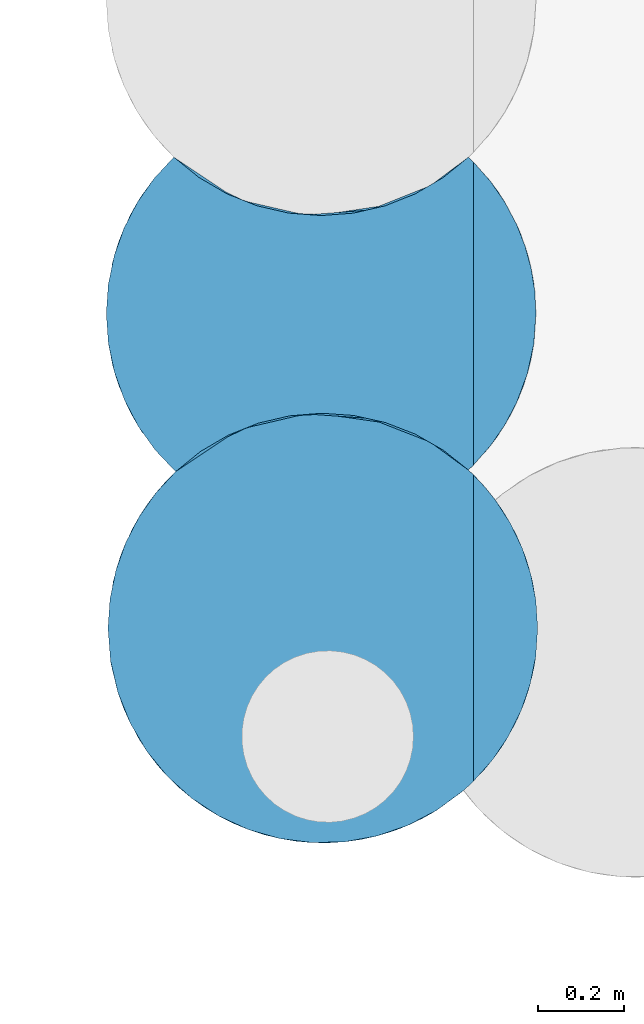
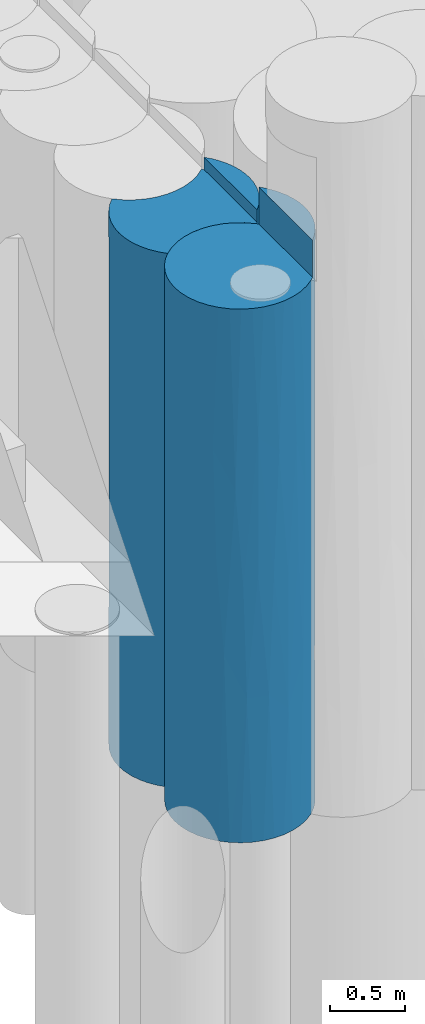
# One storey, part 16 of 104: 2 piles.
"""IFC2X3 building model written with IfcOpenShell, lengths in millimetres."""

from ifc_helpers import new_model, entity, si_unit, converted_unit, derived_unit, direction, frame, origin, place, context, subcontext, project, spatial, faceted_brep, source, transform, mapped, material, element, save


model = new_model("IFC2X3")

# Units and contexts
model_context = context("Model", 3, precision=0.01, world=origin(), true_north=direction((6.12303176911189e-17, 1.0)))
body_context = subcontext(model_context, "Body", "Model", "MODEL_VIEW")
ifc_project = project(units=[si_unit("LENGTHUNIT", "METRE", prefix="MILLI"), si_unit("AREAUNIT", "SQUARE_METRE", prefix="MILLI"), si_unit("VOLUMEUNIT", "CUBIC_METRE"), converted_unit("PLANEANGLEUNIT", "DEGREE", entity("IfcRatioMeasure", 0.0174532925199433), si_unit("PLANEANGLEUNIT", "RADIAN"), dimensions=[0, 0, 0, 0, 0, 0, 0]), si_unit("MASSUNIT", "GRAM", prefix="KILO"), derived_unit("MASSDENSITYUNIT", [(si_unit("MASSUNIT", "GRAM", prefix="KILO"), 1), (si_unit("LENGTHUNIT", "METRE"), -3)]), derived_unit("MOMENTOFINERTIAUNIT", [(si_unit("LENGTHUNIT", "METRE"), 4)]), si_unit("TIMEUNIT", "SECOND"), si_unit("FREQUENCYUNIT", "HERTZ"), si_unit("THERMODYNAMICTEMPERATUREUNIT", "DEGREE_CELSIUS"), derived_unit("THERMALTRANSMITTANCEUNIT", [(si_unit("MASSUNIT", "GRAM", prefix="KILO"), 1), (si_unit("THERMODYNAMICTEMPERATUREUNIT", "KELVIN"), -1), (si_unit("TIMEUNIT", "SECOND"), -3)]), derived_unit("VOLUMETRICFLOWRATEUNIT", [(si_unit("LENGTHUNIT", "METRE"), 3), (si_unit("TIMEUNIT", "SECOND"), -1)]), si_unit("ELECTRICCURRENTUNIT", "AMPERE"), si_unit("ELECTRICVOLTAGEUNIT", "VOLT"), si_unit("POWERUNIT", "WATT"), si_unit("FORCEUNIT", "NEWTON", prefix="KILO"), si_unit("ILLUMINANCEUNIT", "LUX"), si_unit("LUMINOUSFLUXUNIT", "LUMEN"), si_unit("LUMINOUSINTENSITYUNIT", "CANDELA"), derived_unit("USERDEFINED", [(si_unit("MASSUNIT", "GRAM", prefix="KILO"), -1), (si_unit("LENGTHUNIT", "METRE"), -2), (si_unit("TIMEUNIT", "SECOND"), 3), (si_unit("LUMINOUSFLUXUNIT", "LUMEN"), 1)]), derived_unit("LINEARVELOCITYUNIT", [(si_unit("LENGTHUNIT", "METRE"), 1), (si_unit("TIMEUNIT", "SECOND"), -1)]), si_unit("PRESSUREUNIT", "PASCAL"), derived_unit("USERDEFINED", [(si_unit("LENGTHUNIT", "METRE"), -2), (si_unit("MASSUNIT", "GRAM", prefix="KILO"), 1), (si_unit("TIMEUNIT", "SECOND"), -2)]), derived_unit("LINEARFORCEUNIT", [(si_unit("MASSUNIT", "GRAM", prefix="KILO"), 1), (si_unit("LENGTHUNIT", "METRE"), 1), (si_unit("TIMEUNIT", "SECOND"), -2), (si_unit("LENGTHUNIT", "METRE"), -1)]), derived_unit("PLANARFORCEUNIT", [(si_unit("MASSUNIT", "GRAM", prefix="KILO"), 1), (si_unit("LENGTHUNIT", "METRE"), 1), (si_unit("TIMEUNIT", "SECOND"), -2), (si_unit("LENGTHUNIT", "METRE"), -2)])], contexts=[model_context])

# Site, building, storey
site_placement = place(None, origin())
site = spatial("IfcSite", under=ifc_project, at=site_placement, Name="Theater aan de Parade", CompositionType="ELEMENT")
building_placement = place(site_placement, origin())
building = spatial("IfcBuilding", under=site, at=building_placement, Name="Theater aan de Parade", CompositionType="ELEMENT")
storey_placement = place(building_placement, frame((0.0, 0.0, -5520.0)))
storey = spatial("IfcBuildingStorey", under=building, at=storey_placement, Name="-2 kelder", CompositionType="ELEMENT", Elevation=-5520.0)

# Piles
ifc_material = material(Name="00_PBT_MAT_grout")
shared_shape_1 = source(origin(), body_context, "Body", "Brep", [
    faceted_brep([(652.737142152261, 641.003403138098, 0.0), (981.595272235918, 641.003403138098, 0.0), (996.568926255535, 571.721730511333, 0.0), (1001.59527223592, 501.003403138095, 0.0), (996.484550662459, 429.69700722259, 0.0), (981.260617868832, 359.86107710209, 0.0), (956.235191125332, 292.910769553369, 0.0), (921.921388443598, 230.215744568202, 0.0), (879.020764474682, 173.055239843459, 0.0), (828.407067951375, 122.602821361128, 0.0), (767.257527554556, 77.4192130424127, 0.0), (699.962782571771, 42.0368130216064, 0.0), (628.081210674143, 17.2665869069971, 0.0), (553.274780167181, 3.68134605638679, 0.0), (477.273106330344, 1.59532125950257, 0.0), (401.833471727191, 11.0568926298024, 0.0), (328.700205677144, 31.8474632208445, 0.0), (259.5643613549, 63.4865026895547, 0.0), (196.024622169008, 105.242644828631, 0.0), (139.550340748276, 156.150582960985, 0.0), (91.4475646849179, 215.033373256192, 0.0), (52.8288342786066, 280.529631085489, 0.0), (24.5874504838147, 351.124992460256, 0.0), (7.37687608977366, 425.186670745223, 0.0), (1.5952722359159, 501.0034031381, 0.0), (6.21245642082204, 568.796218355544, 0.0), (19.9760789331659, 635.327461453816, 0.0), (42.6312781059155, 699.376919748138, 0.0), (73.7582250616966, 759.760936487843, 0.0), (112.781222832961, 815.365670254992, 0.0), (158.988346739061, 865.168537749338, 0.0), (210.193538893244, 907.309974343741, 0.0), (266.53373380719, 942.303837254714, 0.0), (327.009075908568, 969.532655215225, 0.0), (390.556343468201, 988.517870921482, 0.0), (456.058433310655, 998.925481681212, 0.0), (522.363757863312, 1000.57188693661, 0.0), (588.305073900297, 993.427417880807, 0.0), (652.737142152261, 977.612399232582, 0.0), (387.442062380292, 987.798066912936, 3244.72220634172), (281.771197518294, 950.088446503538, 4320.0), (351.30792434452, 977.882541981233, 4320.0), (92.3243044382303, 788.226791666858, 1147.84684598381), (183.88355562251, 887.085344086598, 1831.85045859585), (183.883555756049, 887.085344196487, 890.537160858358), (981.595272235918, 641.003403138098, 1000.0), (1001.59527223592, 501.0034031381, 2310.0), (1001.59527223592, 501.003403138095, 1496.92458815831), (1001.59527223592, 501.0034031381, 1155.0), (935.263440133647, 749.864649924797, 1000.0), (902.783141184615, 799.413010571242, 1000.0), (919.75781215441, 775.120331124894, 2116.46318686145), (6.21275009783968, 568.798364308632, 4320.0), (1.59527223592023, 501.0034031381, 2758.4752579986), (1.59527223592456, 501.0034031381, 3539.23119433), (1.59527223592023, 501.0034031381, 4320.0), (113.074238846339, 815.727737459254, 2042.39998644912), (873.125106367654, 835.615988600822, 1000.0), (857.072060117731, 852.622875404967, 1817.91351695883), (449.180463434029, 998.248501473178, 2517.68345043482), (358.467574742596, 980.080079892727, 2149.78615925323), (135.005082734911, 841.020510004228, 3018.88254979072), (112.750472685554, 815.327633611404, 4320.0), (158.953913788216, 865.141974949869, 4320.0), (961.655733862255, 696.820592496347, 1000.0), (536.315287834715, 999.796466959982, 2983.71487445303), (652.737142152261, 977.612399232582, 1000.0), (849.640124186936, 859.980813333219, 2658.11262271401), (775.703899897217, 919.171384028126, 2039.13455867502), (798.123003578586, 903.584208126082, 1000.0), (840.241325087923, 868.860509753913, 1000.0), (752.467321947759, 933.511454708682, 1000.0), (678.542084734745, 968.646242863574, 2664.933075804), (749.702669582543, 935.103298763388, 3370.10374317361), (57.1530048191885, 730.069050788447, 2160.01727949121), (30.2081452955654, 667.719258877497, 3172.27895487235), (74.9032592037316, 761.644777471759, 3346.91041429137), (678.542085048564, 968.646242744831, 1813.539130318), (266.116623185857, 942.081407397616, 2015.64644824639), (296.319436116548, 956.92207034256, 1139.77158678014), (965.230086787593, 688.200515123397, 4620.0), (990.056471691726, 607.800671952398, 3471.47678367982), (952.320697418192, 717.444136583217, 3562.17525178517), (703.818816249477, 958.284102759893, 1000.0), (584.462667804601, 994.088583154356, 1644.82006800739), (972.453325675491, 669.207723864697, 2575.05067250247), (997.507168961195, 564.810853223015, 4620.0), (1001.59527223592, 501.0034031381, 4620.0), (1001.59527223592, 501.0034031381, 3058.46227102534), (905.799547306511, 795.314300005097, 3152.02980517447), (843.389460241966, 865.93727803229, 3487.6327413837), (489.183765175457, 1000.84933389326, 1399.29801515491), (558.33211573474, 997.773904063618, 816.737839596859), (937.569029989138, 745.803081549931, 4620.0), (985.319130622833, 627.538887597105, 4620.0), (852.737142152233, 856.951976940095, 4320.0), (902.789513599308, 799.404443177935, 4620.0), (878.885622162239, 829.107032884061, 4620.0), (852.737142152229, 856.951976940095, 4620.0), (846.51698309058, 862.982702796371, 4320.0), (781.513195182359, 915.305172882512, 4320.0), (840.236630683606, 868.864831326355, 4320.0), (667.366758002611, 972.723462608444, 3500.96222360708), (13.2587699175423, 608.369415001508, 2160.0), (30.2145699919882, 667.737423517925, 1147.67707705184), (390.442599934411, 988.491950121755, 1277.18089686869), (19.9727180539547, 635.31541043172, 4320.0), (248.758963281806, 932.36612854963, 3019.48333714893), (424.217282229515, 994.979765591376, 4320.0), (498.864007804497, 1000.99594327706, 4320.0), (1.5952722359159, 501.0034031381, 1561.54245439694), (1.59527223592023, 501.0034031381, 2159.99258585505), (573.571575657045, 995.795694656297, 4320.0), (646.662973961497, 979.496205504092, 4320.0), (716.498897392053, 952.463735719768, 4320.0), (1.59527223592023, 501.0034031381, 780.768805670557), (217.16654487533, 912.221470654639, 4320.0), (42.620953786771, 699.353031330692, 4320.0), (73.7377647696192, 759.727103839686, 4320.0), (128.823891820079, 167.77450591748, 2268.23173773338), (93.3171863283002, 212.370410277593, 1149.97089051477), (166.818412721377, 129.621585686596, 1504.51992428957), (852.73714215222, 145.054829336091, 4320.0), (915.913113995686, 221.109269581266, 3661.4949363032), (896.547740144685, 194.388745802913, 4620.0), (997.240010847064, 435.152867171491, 4620.0), (974.600044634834, 338.934018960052, 3661.49948284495), (988.982267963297, 389.406286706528, 2666.26072765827), (949.151521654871, 278.083229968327, 2859.72726960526), (7.37680175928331, 425.187155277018, 4320.0), (895.178628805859, 192.633266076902, 2786.28799749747), (834.610786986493, 128.041385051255, 3241.33213471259), (439.37318608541, 4.89009753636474, 1164.89855771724), (293.530020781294, 46.3509522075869, 1164.89921509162), (272.252782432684, 56.7039293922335, 2060.9718774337), (364.871083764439, 20.0600631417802, 2159.99987476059), (590.936591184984, 9.05002249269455, 1005.71397127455), (70.8914096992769, 247.046354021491, 2159.99941464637), (37.364272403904, 315.289701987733, 1164.9057447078), (8.87079320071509, 416.017593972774, 2940.00923178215), (24.5872499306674, 351.125630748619, 4320.0), (8.87090454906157, 416.01694840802, 1379.98175338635), (37.3640014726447, 315.29037923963, 3155.09145598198), (24.3064349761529, 352.022310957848, 2159.99739353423), (364.871438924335, 20.0599621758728, 3268.29987545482), (475.782446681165, 1.67014965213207, 2144.2333663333), (734.283657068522, 58.4470614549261, 1344.5452702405), (993.962292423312, 413.970550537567, 1828.00506156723), (114.377605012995, 184.676865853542, 3155.09705697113), (628.083079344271, 17.2670755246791, 4320.0), (515.314887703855, 1.19166642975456, 3113.72229129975), (664.495539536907, 28.2841387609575, 3113.71297088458), (52.8284860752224, 280.530339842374, 4320.0), (993.894472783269, 413.587745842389, 958.68865152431), (91.447114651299, 215.034018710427, 4320.0), (226.999367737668, 83.1552378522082, 2847.12513317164), (825.166601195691, 119.818939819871, 1135.28726179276), (834.610786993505, 128.041385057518, 2160.0), (962.880170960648, 308.088286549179, 4620.0), (984.259860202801, 370.485605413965, 4620.0), (139.549875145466, 156.151071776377, 4320.0), (196.024251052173, 105.242931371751, 4320.0), (328.700363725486, 31.847404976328, 4320.0), (401.834030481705, 11.0567788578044, 4320.0), (259.564201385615, 63.4865911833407, 4320.0), (477.274112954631, 1.5952722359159, 4320.0), (590.936591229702, 9.05002250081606, 2070.47291873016), (757.645590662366, 71.5406754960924, 2700.66606724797), (553.276238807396, 3.68149763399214, 4320.0), (933.473712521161, 249.049016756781, 4620.0), (901.493681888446, 200.867997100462, 1246.71174598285), (927.856169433, 239.657564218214, 2046.15416146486), (738.514808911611, 60.6976762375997, 3526.56704938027), (682.878311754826, 35.0243697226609, 2237.10748440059), (699.96497463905, 42.0377604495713, 4320.0), (767.259917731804, 77.4207121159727, 4320.0), (828.407403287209, 122.593795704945, 4320.0), (852.737142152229, 145.0548293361, 4620.0), (840.723379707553, 133.590656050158, 4320.0), (969.945747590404, 325.938180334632, 1451.20431044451), (852.737142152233, 749.603387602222, 4620.0), (652.737142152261, 641.003403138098, 1000.0)], [[[0, 1, 2, 3, 4, 5, 6, 7, 8, 9, 10, 11, 12, 13, 14, 15, 16, 17, 18, 19, 20, 21, 22, 23, 24, 25, 26, 27, 28, 29, 30, 31, 32, 33, 34, 35, 36, 37, 38]], [[39, 40, 41]], [[42, 43, 44]], [[45, 2, 1]], [[45, 46, 47, 48]], [[49, 50, 51]], [[52, 53, 54, 55]], [[42, 56, 43]], [[57, 58, 50]], [[39, 59, 60]], [[61, 62, 63]], [[64, 49, 51]], [[59, 39, 65]], [[66, 38, 37]], [[67, 58, 68]], [[58, 69, 68]], [[58, 70, 69]], [[68, 69, 71]], [[68, 72, 73]], [[74, 75, 76]], [[77, 68, 71]], [[58, 51, 50]], [[78, 79, 43]], [[80, 81, 82]], [[77, 83, 66]], [[84, 72, 77]], [[85, 81, 46]], [[86, 87, 81]], [[88, 46, 81, 87]], [[89, 67, 90]], [[91, 84, 92]], [[82, 81, 85]], [[45, 85, 46]], [[80, 82, 93]], [[51, 58, 67]], [[67, 89, 51]], [[2, 45, 48]], [[81, 80, 94]], [[95, 96, 89]], [[96, 93, 82]], [[85, 45, 64]], [[78, 60, 79]], [[97, 95, 98]], [[68, 73, 67]], [[95, 90, 99]], [[57, 70, 58]], [[100, 101, 90]], [[99, 90, 101]], [[95, 97, 96]], [[102, 73, 72]], [[103, 53, 75]], [[35, 91, 92]], [[25, 104, 26]], [[105, 33, 79]], [[100, 90, 73]], [[79, 44, 43]], [[32, 44, 79]], [[34, 105, 35]], [[59, 84, 91]], [[66, 84, 77]], [[89, 90, 95]], [[89, 82, 85]], [[105, 34, 33]], [[44, 31, 30]], [[73, 90, 67]], [[42, 104, 74]], [[82, 89, 96]], [[89, 85, 51]], [[52, 106, 75]], [[104, 28, 27]], [[107, 39, 60]], [[62, 61, 76]], [[68, 77, 72]], [[39, 108, 109]], [[28, 104, 42]], [[60, 105, 79]], [[37, 92, 66]], [[44, 30, 29]], [[103, 110, 111, 53]], [[112, 102, 65]], [[112, 113, 102]], [[100, 73, 114]], [[73, 102, 114]], [[108, 39, 41]], [[109, 112, 65]], [[25, 24, 115, 110]], [[109, 65, 39]], [[40, 39, 107]], [[110, 104, 25]], [[61, 107, 43]], [[33, 32, 79]], [[107, 61, 116]], [[29, 28, 42]], [[117, 75, 106]], [[44, 29, 42]], [[116, 40, 107]], [[56, 42, 74]], [[116, 61, 63]], [[117, 76, 75]], [[44, 32, 31]], [[77, 71, 83]], [[64, 51, 85]], [[117, 118, 76]], [[27, 26, 104]], [[52, 75, 53]], [[35, 92, 36]], [[72, 84, 65]], [[103, 74, 104]], [[86, 81, 94]], [[74, 103, 75]], [[104, 110, 103]], [[66, 92, 84]], [[36, 92, 37]], [[65, 102, 72]], [[114, 102, 113]], [[84, 59, 65]], [[105, 59, 91]], [[76, 56, 74]], [[61, 43, 56]], [[59, 105, 60]], [[3, 2, 48]], [[105, 91, 35]], [[43, 107, 78]], [[107, 60, 78]], [[62, 76, 118]], [[76, 61, 56]], [[119, 120, 121]], [[122, 123, 124]], [[23, 115, 24]], [[125, 126, 88]], [[127, 126, 128]], [[129, 55, 54]], [[121, 19, 18]], [[130, 123, 131]], [[16, 15, 132]], [[18, 133, 121]], [[134, 133, 135]], [[136, 132, 14]], [[137, 138, 120]], [[139, 140, 129]], [[141, 23, 22]], [[132, 133, 16]], [[133, 17, 16]], [[137, 142, 143]], [[139, 111, 143]], [[136, 13, 12]], [[138, 137, 143]], [[144, 135, 145]], [[11, 146, 136]], [[147, 88, 127]], [[138, 22, 21]], [[142, 137, 148]], [[139, 129, 54]], [[149, 150, 151]], [[140, 142, 152]], [[153, 5, 4]], [[148, 154, 152]], [[148, 119, 155]], [[156, 157, 146]], [[158, 126, 159]], [[160, 154, 148]], [[148, 161, 160]], [[148, 152, 142]], [[15, 14, 132]], [[162, 144, 163]], [[164, 155, 144]], [[150, 165, 144]], [[141, 22, 138]], [[166, 151, 150]], [[144, 162, 164]], [[146, 157, 167]], [[161, 148, 155]], [[119, 148, 137]], [[9, 156, 10]], [[165, 150, 168]], [[132, 135, 133]], [[10, 146, 11]], [[126, 169, 123]], [[157, 156, 170]], [[136, 14, 13]], [[126, 125, 159]], [[138, 143, 141]], [[20, 120, 21]], [[153, 3, 48, 47]], [[130, 157, 171]], [[144, 165, 163]], [[151, 167, 172]], [[3, 153, 4]], [[8, 7, 170]], [[151, 173, 167]], [[132, 145, 135]], [[158, 169, 126]], [[168, 150, 149]], [[174, 149, 151]], [[175, 131, 176]], [[19, 121, 120]], [[156, 8, 170]], [[151, 172, 174]], [[177, 122, 124]], [[178, 131, 122]], [[131, 178, 176]], [[130, 128, 123]], [[123, 122, 131]], [[128, 126, 123]], [[134, 144, 155]], [[134, 121, 133]], [[6, 5, 179]], [[87, 125, 88]], [[6, 170, 7]], [[173, 136, 146]], [[88, 126, 127]], [[167, 157, 131]], [[123, 169, 124]], [[155, 164, 161]], [[130, 171, 128]], [[179, 170, 6]], [[145, 166, 150]], [[133, 18, 17]], [[136, 12, 11]], [[136, 166, 145]], [[128, 179, 127]], [[179, 153, 147]], [[172, 131, 175]], [[151, 166, 173]], [[131, 157, 130]], [[171, 157, 170]], [[170, 179, 171]], [[179, 128, 171]], [[21, 120, 138]], [[19, 120, 20]], [[139, 143, 142]], [[141, 111, 110, 115]], [[139, 142, 140]], [[139, 54, 53, 111]], [[111, 141, 143]], [[23, 141, 115]], [[136, 173, 166]], [[146, 167, 173]], [[145, 132, 136]], [[144, 145, 150]], [[131, 172, 167]], [[174, 172, 175]], [[10, 156, 146]], [[8, 156, 9]], [[147, 153, 47]], [[5, 153, 179]], [[147, 47, 46, 88]], [[179, 147, 127]], [[120, 119, 137]], [[155, 119, 121]], [[144, 134, 135]], [[121, 134, 155]], [[80, 93, 96, 97, 98, 180, 177, 124, 169, 158, 159, 125, 87, 86, 94]], [[117, 106, 52, 55, 129, 140, 152, 154, 160, 161, 164, 162, 163, 165, 168, 149, 174, 175, 176, 178, 122, 95, 99, 101, 100, 114, 113, 112, 109, 108, 41, 40, 116, 63, 62, 118]], [[180, 98, 95, 122, 177]], [[71, 69, 70, 57, 50, 49, 64, 45, 181, 66, 83]], [[181, 45, 1, 0]], [[66, 181, 0, 38]]]),
])
pile_1_placement = place(storey_placement, frame((34352.2628578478, 22241.3640002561, -3840.0)))
element("IfcPile", 1, at=pile_1_placement, inside=storey, material=ifc_material, Name="17_PBT_SFO_grondkering_rond:Ø1000 (grondkering)", ObjectType="17_PBT_SFO_grondkering_rond:Ø1000 (grondkering)", PredefinedType="NOTDEFINED", context=body_context, shape_type="MappedRepresentation", body=[
    mapped(shared_shape_1, transform((0.0, 0.0, 0.0), scale=1.0)),
])
shared_shape_2 = source(origin(), body_context, "Body", "Brep", [
    faceted_brep([(267.323279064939, 655.736615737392, 0.0), (328.369525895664, 628.422756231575, 0.0), (392.511444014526, 609.501048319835, 0.0), (458.603757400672, 599.308399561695, 0.0), (525.466685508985, 598.026869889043, 0.0), (591.906634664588, 605.680473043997, 0.0), (656.737142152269, 622.134704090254, 0.0), (656.737142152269, 114.065696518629, 0.0), (592.312803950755, 129.879353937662, 0.0), (526.368672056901, 137.024979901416, 0.0), (460.063053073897, 135.379201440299, 0.0), (394.560195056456, 124.972045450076, 0.0), (331.010197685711, 105.986370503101, 0.0), (270.529176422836, 78.7547069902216, 0.0), (214.183944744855, 43.7563905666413, 0.0), (162.953913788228, 1.5952722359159, 0.0), (115.630972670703, 51.6020804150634, 0.0), (75.6356675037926, 107.620081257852, 0.0), (43.7124333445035, 168.600269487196, 0.0), (20.4653502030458, 233.390546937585, 0.0), (6.33689184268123, 300.760727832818, 0.0), (1.5952722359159, 369.456700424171, 0.0), (6.20818208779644, 437.218274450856, 0.0), (19.9555085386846, 503.706981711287, 0.0), (42.5833371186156, 567.719262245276, 0.0), (73.6726367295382, 628.072666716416, 0.0), (112.651085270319, 683.657940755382, 0.0), (158.806707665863, 733.456700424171, 0.0), (210.467388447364, 690.953864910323, 0.0), (991.242487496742, 470.677274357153, 2006.45902320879), (1001.59527223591, 369.456700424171, 1929.23113047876), (996.985169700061, 437.19774773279, 1000.0), (913.156606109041, 653.388502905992, 3327.23332800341), (895.696231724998, 677.165058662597, 4420.0), (929.184436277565, 628.623648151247, 4420.0), (990.243317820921, 475.395775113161, 4420.0), (983.899355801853, 501.300437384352, 3514.82525543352), (976.183148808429, 526.829974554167, 4420.0), (890.538738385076, 683.658833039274, 1000.0), (844.38383680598, 733.456700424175, 1879.23144085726), (910.974780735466, 656.525364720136, 2100.92310348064), (964.338954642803, 558.845940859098, 1856.79465502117), (967.115021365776, 551.915910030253, 2715.39360249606), (956.721961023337, 576.482537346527, 4420.0), (929.521362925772, 628.066949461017, 1000.0), (983.239874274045, 503.689622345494, 1000.0), (960.61285484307, 567.706186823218, 1000.0), (998.746655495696, 422.753061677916, 4420.0), (1001.59527223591, 369.456700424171, 2858.46226095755), (1001.59527223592, 369.456700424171, 1000.0), (1001.59527223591, 369.456700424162, 2561.53770596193), (1001.59527223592, 369.456700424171, 4420.0), (1001.59527223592, 369.456700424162, 3490.76885298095), (856.737142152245, 721.414442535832, 4320.0), (844.383836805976, 733.456700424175, 2758.46248732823), (850.612430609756, 727.48885423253, 4320.0), (844.383836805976, 733.456700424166, 3440.76885314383), (844.383836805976, 733.456700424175, 4320.0), (856.737142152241, 721.414442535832, 4420.0), (844.383836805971, 733.456700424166, 2561.53770628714), (844.383836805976, 733.456700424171, 1000.0), (16.2223336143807, 249.402085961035, 1491.83378390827), (6.33694279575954, 300.760360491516, 4320.0), (21.0418821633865, 231.368180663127, 3388.20648044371), (20.4653569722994, 233.390523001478, 4320.0), (162.953913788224, 1.59527223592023, 2758.46229274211), (58.6232883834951, 137.56055659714, 3329.65397878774), (84.0457884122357, 94.4068348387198, 2321.03524462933), (58.623476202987, 137.560197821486, 1312.41481177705), (1.59527223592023, 369.456700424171, 1561.53516642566), (162.953913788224, 1.59527223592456, 1561.53770725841), (115.630580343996, 51.6025568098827, 4320.0), (75.6353844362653, 107.620541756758, 4320.0), (30.9725729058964, 200.594997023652, 2504.86075722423), (1.59527223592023, 369.456700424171, 2940.76758321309), (1.59527223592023, 369.456700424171, 4320.0), (162.953913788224, 1.59527223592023, 4320.0), (43.7123251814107, 168.600516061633, 4320.0), (1.5952722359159, 369.456700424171, 2758.45715325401), (856.737142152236, 17.4989583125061, 4420.0), (895.731526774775, 61.7935520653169, 4420.0), (929.19822685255, 110.312506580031, 4420.0), (956.721214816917, 162.439521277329, 4420.0), (981.484856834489, 229.078687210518, 4420.0), (996.541206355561, 298.544626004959, 4420.0), (297.389215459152, 641.057876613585, 1404.47162504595), (613.937329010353, 610.240873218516, 2653.03150973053), (530.994805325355, 598.321781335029, 2050.76406694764), (463.861374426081, 598.882580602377, 3233.09526452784), (656.737142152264, 622.134704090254, 1000.0), (492.01377186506, 597.548514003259, 1140.51945206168), (619.657892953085, 611.595385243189, 1789.43089182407), (227.11070635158, 679.535388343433, 3337.61357922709), (158.806707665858, 733.456700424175, 2758.4622926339), (158.806707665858, 733.456700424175, 4320.0), (282.655959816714, 647.939651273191, 4320.0), (352.804483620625, 620.10850337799, 4320.0), (317.204383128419, 632.698698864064, 3016.85071920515), (501.595272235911, 597.456700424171, 4320.0), (576.847851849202, 603.152088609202, 4320.0), (613.937328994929, 610.240873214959, 3522.64310373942), (753.834283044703, 665.744433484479, 3166.78787605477), (756.706671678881, 667.4355685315, 2057.42784165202), (425.387004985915, 603.298527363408, 2149.06733909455), (392.465961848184, 609.511218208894, 1269.58220085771), (158.806707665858, 733.456700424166, 1379.23333206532), (158.806707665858, 733.456700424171, 1561.53770736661), (785.695330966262, 686.011495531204, 4320.0), (240.874329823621, 670.813301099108, 2287.63634853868), (426.342692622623, 603.152088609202, 4320.0), (720.534584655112, 647.939651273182, 4320.0), (724.52149740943, 649.903465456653, 1000.0), (650.386060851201, 620.108503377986, 4320.0), (787.521122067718, 687.278192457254, 1000.0), (335.032355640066, 626.015511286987, 2177.10511890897), (217.495213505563, 686.011495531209, 4320.0), (112.651806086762, 683.658833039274, 4320.0), (73.6691815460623, 628.066949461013, 4320.0), (42.5776896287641, 567.706186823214, 4320.0), (19.9506701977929, 503.689622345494, 4320.0), (6.20537477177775, 437.19774773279, 4320.0), (221.178724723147, 48.6831921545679, 4320.0), (285.78288597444, 86.5474650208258, 4320.0), (355.317351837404, 114.338810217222, 4320.0), (428.222491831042, 131.433878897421, 4320.0), (502.863072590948, 137.449235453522, 4320.0), (577.56493550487, 132.249957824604, 4320.0), (650.652547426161, 115.952663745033, 4320.0), (720.486582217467, 88.9228950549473, 4320.0), (785.500690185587, 51.766918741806, 4320.0), (844.236630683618, 5.31812861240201, 4320.0), (850.519309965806, 11.333794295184, 4320.0), (856.737142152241, 17.4989583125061, 4320.0), (621.043911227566, 123.945766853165, 1792.85094927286), (724.313548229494, 87.0813391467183, 1000.0), (756.450630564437, 69.9744332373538, 2059.9269759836), (465.430012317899, 135.840841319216, 3233.00213032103), (390.071865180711, 123.928017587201, 970.974521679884), (300.317627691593, 93.3745533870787, 1399.12987933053), (614.414265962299, 125.471481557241, 3522.28251885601), (493.188542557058, 137.302749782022, 1139.52398525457), (427.138870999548, 131.262930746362, 2149.24920440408), (532.305174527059, 136.742771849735, 2045.75446666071), (614.414265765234, 125.471481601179, 2653.41242926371), (656.737142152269, 114.065696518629, 1000.0), (753.690197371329, 71.5637242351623, 3171.02852047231), (787.257740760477, 50.5744243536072, 1000.0), (844.236630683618, 5.31812861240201, 1000.0), (844.236630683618, 5.31812861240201, 3440.76884037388), (320.029115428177, 101.746697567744, 3020.88957516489), (844.236630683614, 5.31812861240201, 2561.53768074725), (234.222397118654, 57.4052242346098, 3073.33502453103), (236.295906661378, 58.7379030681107, 2183.19114586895), (336.791090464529, 108.100034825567, 2178.08064799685), (844.236630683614, 5.31812861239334, 1879.23114683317), (844.236630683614, 5.31812861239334, 3539.23114683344), (844.236630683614, 5.31812861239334, 2758.46229366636), (943.737259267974, 135.981940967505, 2919.76812293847), (910.887708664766, 82.263905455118, 2021.77545357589), (960.572765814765, 171.114419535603, 1000.0), (972.986186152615, 202.751552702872, 2051.53117669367), (890.432847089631, 55.1235326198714, 1000.0), (929.451637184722, 110.731110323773, 1000.0), (990.248985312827, 263.543770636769, 3260.7919922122), (996.980603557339, 301.682269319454, 1000.0), (983.22177818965, 235.158864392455, 1000.0), (15.4611002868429, 486.390728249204, 1993.01692752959), (30.1816558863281, 536.097638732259, 982.635361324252), (82.1945983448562, 641.675499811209, 2804.88372013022), (57.1024527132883, 598.424238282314, 1803.15273010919), (73.0275224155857, 627.00219895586, 926.606949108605), (30.1762796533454, 536.082429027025, 3003.46839526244)], [[[0, 1, 2, 3, 4, 5, 6, 7, 8, 9, 10, 11, 12, 13, 14, 15, 16, 17, 18, 19, 20, 21, 22, 23, 24, 25, 26, 27, 28]], [[29, 30, 31]], [[32, 33, 34]], [[35, 36, 37]], [[38, 39, 40]], [[41, 42, 29]], [[36, 43, 37]], [[44, 40, 41]], [[45, 46, 41]], [[29, 31, 45]], [[36, 47, 48]], [[30, 49, 31]], [[47, 36, 35]], [[36, 42, 32]], [[36, 29, 42]], [[29, 48, 50, 30]], [[40, 42, 41]], [[47, 51, 52, 48]], [[40, 32, 42]], [[53, 54, 55]], [[55, 54, 56, 57]], [[32, 40, 54]], [[36, 32, 43]], [[41, 46, 44]], [[54, 53, 32]], [[29, 36, 48]], [[58, 33, 53]], [[32, 53, 33]], [[40, 39, 59, 54]], [[43, 32, 34]], [[39, 38, 60]], [[40, 44, 38]], [[45, 41, 29]], [[20, 19, 61]], [[62, 63, 64]], [[65, 66, 67]], [[68, 19, 18]], [[19, 68, 61]], [[20, 69, 21]], [[16, 15, 70]], [[71, 72, 66]], [[73, 66, 63]], [[63, 62, 74]], [[73, 61, 68]], [[74, 73, 63]], [[70, 68, 16]], [[67, 73, 68]], [[67, 70, 65]], [[67, 66, 73]], [[17, 68, 18]], [[74, 62, 75]], [[65, 76, 71]], [[66, 77, 63]], [[64, 63, 77]], [[77, 66, 72]], [[61, 74, 78, 69]], [[71, 66, 65]], [[70, 67, 68]], [[16, 68, 17]], [[74, 61, 73]], [[61, 69, 20]], [[35, 37, 43, 34, 33, 58, 79, 80, 81, 82, 83, 84, 51, 47]], [[85, 0, 28]], [[86, 87, 88]], [[89, 90, 91]], [[92, 93, 94]], [[95, 96, 97]], [[98, 99, 100]], [[101, 102, 86]], [[103, 90, 104]], [[86, 100, 101]], [[104, 90, 3]], [[28, 27, 105, 106]], [[90, 4, 3]], [[102, 59, 39, 60]], [[107, 56, 101]], [[85, 106, 108]], [[95, 97, 92]], [[88, 103, 97]], [[1, 0, 85]], [[109, 88, 96]], [[103, 87, 90]], [[88, 98, 100]], [[87, 91, 90]], [[5, 90, 89]], [[100, 86, 88]], [[103, 88, 87]], [[5, 89, 6]], [[59, 102, 101]], [[108, 92, 97]], [[97, 96, 88]], [[101, 110, 107]], [[86, 102, 91]], [[1, 104, 2]], [[91, 102, 111]], [[109, 98, 88]], [[112, 100, 99]], [[4, 90, 5]], [[113, 111, 102]], [[100, 110, 101]], [[97, 103, 114]], [[92, 115, 95]], [[107, 57, 56]], [[86, 91, 87]], [[112, 110, 100]], [[114, 103, 104]], [[60, 113, 102]], [[106, 85, 28]], [[111, 89, 91]], [[85, 104, 1]], [[2, 104, 3]], [[115, 92, 94]], [[93, 92, 108]], [[93, 108, 106]], [[114, 85, 108]], [[97, 114, 108]], [[85, 114, 104]], [[101, 56, 54, 59]], [[95, 115, 94, 116, 117, 118, 119, 120, 75, 62, 64, 77, 72, 71, 76, 121, 122, 123, 124, 125, 126, 127, 128, 129, 130, 131, 132, 53, 55, 57, 107, 110, 112, 99, 98, 109, 96]], [[58, 53, 132, 79]], [[133, 134, 135]], [[136, 125, 124]], [[137, 138, 12]], [[127, 126, 139]], [[8, 140, 9]], [[141, 142, 136]], [[143, 139, 136]], [[7, 144, 8]], [[136, 124, 123]], [[139, 145, 128]], [[146, 147, 135]], [[143, 133, 135]], [[142, 140, 133]], [[141, 137, 140]], [[145, 148, 129]], [[13, 138, 14]], [[136, 149, 141]], [[145, 129, 128]], [[135, 134, 146]], [[11, 10, 137]], [[143, 142, 133]], [[10, 140, 137]], [[145, 135, 150]], [[133, 144, 134]], [[12, 138, 13]], [[135, 145, 143]], [[126, 125, 139]], [[139, 143, 145]], [[14, 138, 70]], [[143, 136, 142]], [[76, 151, 121]], [[125, 136, 139]], [[136, 123, 149]], [[141, 140, 142]], [[151, 149, 122]], [[122, 149, 123]], [[70, 15, 14]], [[149, 152, 153]], [[149, 153, 141]], [[152, 65, 70]], [[144, 140, 8]], [[135, 147, 154, 150]], [[9, 140, 10]], [[128, 127, 139]], [[152, 149, 151]], [[144, 133, 140]], [[11, 137, 12]], [[153, 138, 137]], [[141, 153, 137]], [[138, 153, 152]], [[138, 152, 70]], [[151, 65, 152]], [[65, 151, 76]], [[121, 151, 122]], [[129, 148, 155, 130]], [[145, 150, 156, 148]], [[157, 80, 155]], [[158, 159, 160]], [[154, 161, 158]], [[157, 155, 148, 156]], [[159, 158, 162]], [[79, 132, 80]], [[82, 163, 83]], [[50, 160, 164]], [[155, 132, 131]], [[159, 165, 160]], [[158, 161, 162]], [[82, 81, 157]], [[160, 50, 163]], [[158, 156, 150, 154]], [[84, 163, 52]], [[154, 147, 161]], [[163, 50, 48, 52]], [[84, 83, 163]], [[155, 80, 132]], [[164, 49, 30, 50]], [[157, 81, 80]], [[52, 51, 84]], [[131, 130, 155]], [[163, 157, 160]], [[163, 82, 157]], [[160, 165, 164]], [[157, 156, 158]], [[158, 160, 157]], [[116, 94, 93]], [[78, 166, 69]], [[167, 69, 166]], [[167, 24, 23]], [[168, 105, 169]], [[26, 170, 105]], [[93, 168, 116]], [[170, 24, 167]], [[25, 24, 170]], [[69, 167, 22]], [[120, 78, 74, 75]], [[169, 105, 170]], [[116, 168, 117]], [[22, 167, 23]], [[120, 171, 78]], [[78, 171, 166]], [[171, 119, 118]], [[171, 168, 169]], [[22, 21, 69]], [[25, 170, 26]], [[118, 117, 171]], [[167, 169, 170]], [[27, 26, 105]], [[169, 167, 166]], [[169, 166, 171]], [[120, 119, 171]], [[117, 168, 171]], [[168, 93, 106, 105]], [[146, 134, 144, 89, 111, 113, 60, 38, 44, 46, 45, 31, 49, 164, 165, 159, 162, 161, 147]], [[89, 144, 7, 6]]]),
])
pile_2_placement = place(storey_placement, frame((34348.2628578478, 23104.9107029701, -3840.0)))
element("IfcPile", 2, at=pile_2_placement, inside=storey, material=ifc_material, Name="17_PBT_SFO_grondkering_rond:Ø1000 (grondkering)", ObjectType="17_PBT_SFO_grondkering_rond:Ø1000 (grondkering)", PredefinedType="NOTDEFINED", context=body_context, shape_type="MappedRepresentation", body=[
    mapped(shared_shape_2, transform((0.0, 0.0, 0.0), scale=1.0)),
])

save(model, "model.ifc")
